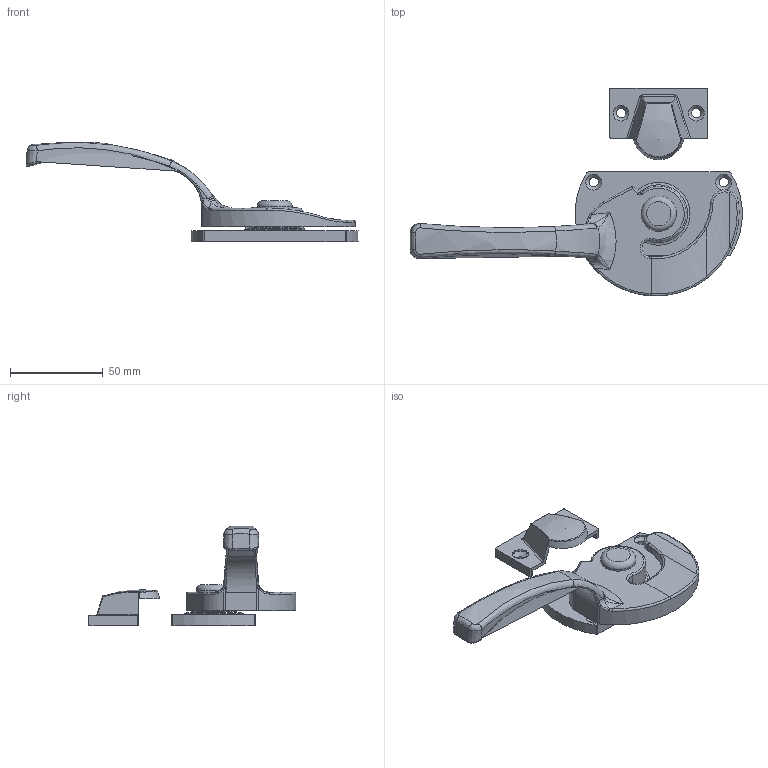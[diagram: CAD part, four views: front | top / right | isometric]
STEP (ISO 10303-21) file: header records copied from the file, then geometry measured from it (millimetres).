
FILE_DESCRIPTION(/* description */ (''),/* implementation_level */ '2;1');
FILE_NAME(/* name */ '\\NAS\db20\D-1114-1\DR_D-1114-1.stp',/* time_stamp */ '2017-07-25T08:55:59+09:00',/* author */ ('user'),/* organization */ (''),/* preprocessor_version */ 'ST-DEVELOPER v15.6',/* originating_system */ 'Autodesk Inventor 2015',/* authorisation */ '');
FILE_SCHEMA (('AUTOMOTIVE_DESIGN { 1 0 10303 214 3 1 1 }'));
Length unit declared in the file: millimetre
Products named in the file (5): DR_D-1114-1-BR; DR_D-1114-1-P; DR_D-1114-1-w; DR_D-1114-1-H_MIR; DR_D-1114-1
Bounding box: 178.74 x 111.93 x 53.52 mm (x, y, z)
Volume: 69790.3 mm3; surface area: 31398.5 mm2
Topology: 5 solids, 6 shells, 195 faces, 473 edges, 289 vertices
Faces by surface type: cylinder 60, bspline 49, plane 46, torus 18, cone 14, sphere 8
Full cylindrical faces by diameter (mm): 5 x6, 6.5 x1, 7.5 x3, 8.5 x6, 19 x1, 19.5 x1, 20 x1, 24 x2
Entity records: 7224 total; most frequent: CARTESIAN_POINT 2885, ORIENTED_EDGE 842, DIRECTION 819, EDGE_CURVE 421, AXIS2_PLACEMENT_3D 350, VERTEX_POINT 276, EDGE_LOOP 247, FACE_OUTER_BOUND 195
